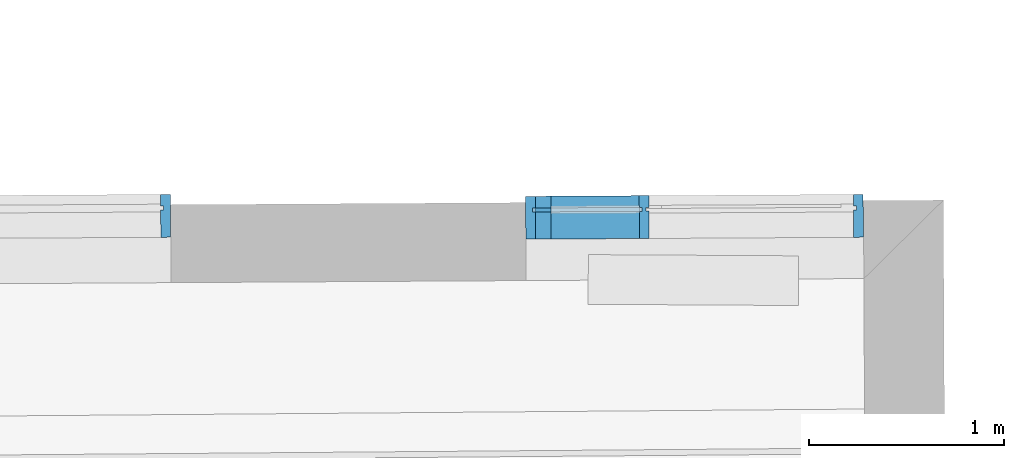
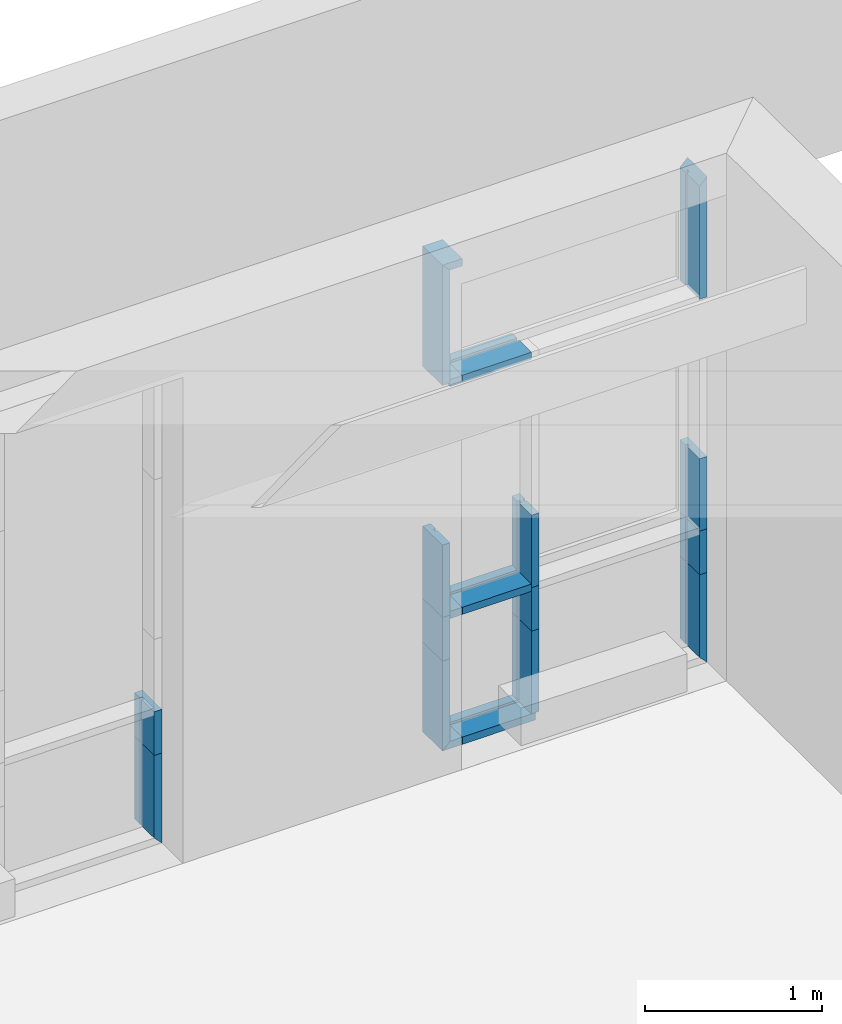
# One storey, part 165 of 196: 20 building element parts, 2 elements without a shape of their own.
"""IFC2X3 building model written with IfcOpenShell, lengths in metres."""

from ifc_helpers import new_model, entity, si_unit, converted_unit, derived_unit, money_unit, direction, frame, origin_with_axes, place, context, subcontext, project, spatial, faceted_brep, material, type_object, element, aggregate, save


model = new_model("IFC2X3")

# Units and contexts
model_context = context("Model", 3, precision=1e-05, world=origin_with_axes(), true_north=direction((0.0, 1.0)))
body_context = subcontext(model_context, "Body", "Model", "MODEL_VIEW")
ifc_project = project(units=[si_unit("LENGTHUNIT", "METRE"), si_unit("AREAUNIT", "SQUARE_METRE"), si_unit("VOLUMEUNIT", "CUBIC_METRE"), converted_unit("PLANEANGLEUNIT", "DEGREE", entity("IfcPlaneAngleMeasure", 0.0174532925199), si_unit("PLANEANGLEUNIT", "RADIAN"), dimensions=[0, 0, 0, 0, 0, 0, 0]), money_unit("EUR"), converted_unit("TIMEUNIT", "Year", entity("IfcTimeMeasure", 31556926.0), si_unit("TIMEUNIT", "SECOND"), dimensions=[0, 0, 1, 0, 0, 0, 0]), si_unit("MASSUNIT", "GRAM", prefix="KILO"), si_unit("THERMODYNAMICTEMPERATUREUNIT", "DEGREE_CELSIUS"), si_unit("LUMINOUSINTENSITYUNIT", "LUMEN"), si_unit("ENERGYUNIT", "JOULE", prefix="MEGA"), derived_unit("THERMALCONDUCTANCEUNIT", [(si_unit("POWERUNIT", "WATT"), 1), (si_unit("LENGTHUNIT", "METRE"), -1), (si_unit("THERMODYNAMICTEMPERATUREUNIT", "KELVIN"), -1)]), derived_unit("SPECIFICHEATCAPACITYUNIT", [(si_unit("ENERGYUNIT", "JOULE"), 1), (si_unit("MASSUNIT", "GRAM", prefix="KILO"), -1), (si_unit("THERMODYNAMICTEMPERATUREUNIT", "KELVIN"), -1)]), derived_unit("MASSDENSITYUNIT", [(si_unit("MASSUNIT", "GRAM", prefix="KILO"), 1), (si_unit("VOLUMEUNIT", "CUBIC_METRE"), -1)])], contexts=[model_context])

# Site, building, storey
site_placement = place(None, origin_with_axes())
site = spatial("IfcSite", under=ifc_project, at=site_placement, Name="Gelände", CompositionType="ELEMENT")
building_placement = place(site_placement, origin_with_axes())
building = spatial("IfcBuilding", under=site, at=building_placement, Name="Gebäude", CompositionType="ELEMENT")
storey_placement = place(building_placement, frame((0.0, 0.0, -3.0), z_axis=(0.0, 0.0, 1.0), x_axis=(1.0, 0.0, 0.0)))
storey = spatial("IfcBuildingStorey", under=building, at=storey_placement, Name="KELLERGESCHOSS", CompositionType="ELEMENT", Elevation=-3.0)

# Proxy, building element parts
building_element_proxy_type = type_object("IfcBuildingElementProxyType", Name="Fassadentyp", PredefinedType="NOTDEFINED")
proxy_1_placement = place(storey_placement, frame((-23.6479994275, 53.9595773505, 0.421025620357), z_axis=(0.0, 0.0, 1.0), x_axis=(1.0, 0.0, 0.0)))
proxy_1 = element("IfcBuildingElementProxy", 1, at=proxy_1_placement, inside=storey, type_object=building_element_proxy_type, Name="Fassade-002")
ifc_material = material(Name="53_Metall, Aluminium")
building_element_part_1_placement = place(proxy_1_placement, origin_with_axes())
building_element_part_1 = element("IfcBuildingElementPart", 2, at=building_element_part_1_placement, material=ifc_material, Name="53_Metall, Aluminium", context=body_context, shape_type="Brep", body=[
    faceted_brep([(4.00979148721, 0.0136883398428, 0.619999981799), (3.99479174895, 0.0135997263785, 0.619999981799), (3.99561880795, -0.126397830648, 0.619999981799), (4.04561793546, -0.126102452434, 0.619999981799), (4.04431827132, 0.093893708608, 0.619999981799), (3.99431914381, 0.0935983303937, 0.619999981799), (3.99467359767, 0.0335993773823, 0.619999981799), (4.00967333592, 0.0336879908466, 0.619999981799), (4.00979148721, 0.0136883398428, 0.0349999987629), (3.99479174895, 0.0135997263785, 0.0499999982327), (3.99561880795, -0.126397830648, 0.0499999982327), (4.04561793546, -0.126102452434, 0.0), (4.04431827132, 0.093893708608, 0.0), (3.99431914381, 0.0935983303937, 0.0499999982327), (3.99467359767, 0.0335993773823, 0.0499999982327), (4.00967333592, 0.0336879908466, 0.0349999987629)], [[[0, 1, 2, 3, 4, 5, 6, 7]], [[0, 8, 9, 1]], [[9, 10, 2, 1]], [[2, 10, 11, 3]], [[3, 11, 12, 4]], [[4, 12, 13, 5]], [[6, 5, 13, 14]], [[14, 15, 7, 6]], [[7, 15, 8, 0]], [[8, 15, 14, 13, 12, 11, 10, 9]]]),
])
building_element_part_2_placement = place(proxy_1_placement, origin_with_axes())
building_element_part_2 = element("IfcBuildingElementPart", 3, at=building_element_part_2_placement, material=ifc_material, Name="53_Metall, Aluminium", context=body_context, shape_type="Brep", body=[
    faceted_brep([(4.00979148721, 0.0136883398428, 0.920851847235), (3.99479174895, 0.0135997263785, 0.920851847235), (3.99561880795, -0.126397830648, 0.920851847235), (4.04561793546, -0.126102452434, 0.920851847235), (4.04431827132, 0.093893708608, 0.920851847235), (3.99431914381, 0.0935983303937, 0.920851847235), (3.99467359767, 0.0335993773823, 0.920851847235), (4.00967333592, 0.0336879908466, 0.920851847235), (4.00979148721, 0.0136883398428, 0.619999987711), (3.99479174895, 0.0135997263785, 0.619999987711), (3.99561880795, -0.126397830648, 0.619999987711), (4.04561793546, -0.126102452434, 0.619999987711), (4.04431827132, 0.093893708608, 0.619999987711), (3.99431914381, 0.0935983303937, 0.619999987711), (3.99467359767, 0.0335993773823, 0.619999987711), (4.00967333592, 0.0336879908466, 0.619999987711)], [[[0, 1, 2, 3, 4, 5, 6, 7]], [[0, 8, 9, 1]], [[9, 10, 2, 1]], [[10, 11, 3, 2]], [[11, 12, 4, 3]], [[12, 13, 5, 4]], [[6, 5, 13, 14]], [[14, 15, 7, 6]], [[7, 15, 8, 0]], [[8, 15, 14, 13, 12, 11, 10, 9]]]),
])
aggregate(proxy_1, [building_element_part_1, building_element_part_2])

proxy_2_placement = place(storey_placement, frame((-16.6085593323, 53.9801493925, 0.421025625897), z_axis=(0.0, 0.0, 1.0), x_axis=(1.0, 0.0, 0.0)))
proxy_2 = element("IfcBuildingElementProxy", 4, at=proxy_2_placement, inside=storey, type_object=building_element_proxy_type, Name="Fassade-002")
building_element_part_3_placement = place(proxy_2_placement, origin_with_axes())
building_element_part_3 = element("IfcBuildingElementPart", 5, at=building_element_part_3_placement, material=ifc_material, Name="53_Metall, Aluminium", context=body_context, shape_type="Brep", body=[
    faceted_brep([(-1.12077753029, -0.0166213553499, 0.910851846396), (-1.12077753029, -0.0166213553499, 0.895851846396), (-1.11995046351, -0.156618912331, 0.895851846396), (-1.11995046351, -0.156618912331, 0.945851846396), (-1.12077753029, -0.0166213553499, 0.945851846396), (-1.12077753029, -0.0166213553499, 0.930851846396), (-1.12089568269, 0.00337829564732, 0.930851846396), (-1.12089568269, 0.00337829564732, 0.945851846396), (-1.12125013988, 0.063377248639, 0.945851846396), (-1.12125013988, 0.063377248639, 0.895851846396), (-1.12089568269, 0.00337829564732, 0.895851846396), (-1.12089568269, 0.00337829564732, 0.910851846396), (-1.04050642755, -0.0161471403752, 0.910851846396), (-1.04050642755, -0.0161471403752, 0.895851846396), (-1.03967936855, -0.156144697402, 0.895851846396), (-1.03967936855, -0.156144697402, 0.945851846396), (-1.04050642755, -0.0161471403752, 0.945851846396), (-1.04050642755, -0.0161471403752, 0.930851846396), (-1.04062457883, 0.0038525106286, 0.930851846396), (-1.04062457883, 0.0038525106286, 0.945851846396), (-1.04097903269, 0.06385146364, 0.945851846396), (-1.04097903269, 0.06385146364, 0.895851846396), (-1.04062457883, 0.0038525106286, 0.895851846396), (-1.04062457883, 0.0038525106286, 0.910851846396)], [[[0, 1, 2, 3, 4, 5, 6, 7, 8, 9, 10, 11]], [[1, 0, 12, 13]], [[1, 13, 14, 2]], [[3, 2, 14, 15]], [[4, 3, 15, 16]], [[4, 16, 17, 5]], [[5, 17, 18, 6]], [[7, 6, 18, 19]], [[19, 20, 8, 7]], [[9, 8, 20, 21]], [[22, 10, 9, 21]], [[11, 10, 22, 23]], [[0, 11, 23, 12]], [[23, 22, 21, 20, 19, 18, 17, 16, 15, 14, 13, 12]]]),
])
building_element_part_4_placement = place(proxy_2_placement, origin_with_axes())
building_element_part_4 = element("IfcBuildingElementPart", 6, at=building_element_part_4_placement, material=ifc_material, Name="53_Metall, Aluminium", context=body_context, shape_type="Brep", body=[
    faceted_brep([(-1.12077753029, -0.0166213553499, 2.50999998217), (-1.12077753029, -0.0166213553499, 2.49499998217), (-1.11995046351, -0.156618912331, 2.49499998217), (-1.11995046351, -0.156618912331, 2.54499998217), (-1.12077753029, -0.0166213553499, 2.54499998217), (-1.12077753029, -0.0166213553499, 2.52999998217), (-1.12089568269, 0.00337829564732, 2.52999998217), (-1.12089568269, 0.00337829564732, 2.54499998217), (-1.12125013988, 0.063377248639, 2.54499998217), (-1.12125013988, 0.063377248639, 2.49499998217), (-1.12089568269, 0.00337829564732, 2.49499998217), (-1.12089568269, 0.00337829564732, 2.50999998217), (-1.04050642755, -0.0161471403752, 2.50999998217), (-1.04050642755, -0.0161471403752, 2.49499998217), (-1.03967936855, -0.156144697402, 2.49499998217), (-1.03967936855, -0.156144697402, 2.54499998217), (-1.04050642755, -0.0161471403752, 2.54499998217), (-1.04050642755, -0.0161471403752, 2.52999998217), (-1.04062457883, 0.0038525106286, 2.52999998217), (-1.04062457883, 0.0038525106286, 2.54499998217), (-1.04097903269, 0.06385146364, 2.54499998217), (-1.04097903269, 0.06385146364, 2.49499998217), (-1.04062457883, 0.0038525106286, 2.49499998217), (-1.04062457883, 0.0038525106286, 2.50999998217)], [[[0, 1, 2, 3, 4, 5, 6, 7, 8, 9, 10, 11]], [[1, 0, 12, 13]], [[1, 13, 14, 2]], [[3, 2, 14, 15]], [[4, 3, 15, 16]], [[4, 16, 17, 5]], [[5, 17, 18, 6]], [[7, 6, 18, 19]], [[19, 20, 8, 7]], [[9, 8, 20, 21]], [[22, 10, 9, 21]], [[11, 10, 22, 23]], [[0, 11, 23, 12]], [[23, 22, 21, 20, 19, 18, 17, 16, 15, 14, 13, 12]]]),
])
building_element_part_5_placement = place(proxy_2_placement, origin_with_axes())
building_element_part_5 = element("IfcBuildingElementPart", 7, at=building_element_part_5_placement, material=ifc_material, Name="53_Metall, Aluminium", context=body_context, shape_type="Brep", body=[
    faceted_brep([(-0.572411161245, -0.0133817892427, 0.619999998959), (-0.587410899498, -0.013470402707, 0.619999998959), (-0.586583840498, -0.153467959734, 0.619999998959), (-0.536584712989, -0.153172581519, 0.619999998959), (-0.537411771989, -0.0131750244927, 0.619999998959), (-0.552411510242, -0.013263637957, 0.619999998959), (-0.552529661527, 0.00673601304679, 0.619999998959), (-0.537529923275, 0.00682462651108, 0.619999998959), (-0.537884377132, 0.0668235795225, 0.619999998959), (-0.587883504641, 0.0665282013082, 0.619999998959), (-0.587529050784, 0.00652924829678, 0.619999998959), (-0.572529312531, 0.00661786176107, 0.619999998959), (-0.572411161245, -0.0133817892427, 0.049999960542), (-0.587410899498, -0.013470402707, 0.049999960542), (-0.586583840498, -0.153467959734, 0.0499999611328), (-0.536584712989, -0.153172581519, 0.0499999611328), (-0.537411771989, -0.0131750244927, 0.049999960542), (-0.552411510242, -0.013263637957, 0.049999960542), (-0.552529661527, 0.00673601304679, 0.0499999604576), (-0.537529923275, 0.00682462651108, 0.0499999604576), (-0.537884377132, 0.0668235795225, 0.0499999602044), (-0.587883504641, 0.0665282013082, 0.0499999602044), (-0.587529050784, 0.00652924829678, 0.0499999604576), (-0.572529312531, 0.00661786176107, 0.0499999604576)], [[[0, 1, 2, 3, 4, 5, 6, 7, 8, 9, 10, 11]], [[1, 0, 12, 13]], [[1, 13, 14, 2]], [[2, 14, 15, 3]], [[4, 3, 15, 16]], [[4, 16, 17, 5]], [[5, 17, 18, 6]], [[7, 6, 18, 19]], [[19, 20, 8, 7]], [[8, 20, 21, 9]], [[22, 10, 9, 21]], [[11, 10, 22, 23]], [[0, 11, 23, 12]], [[23, 22, 21, 20, 19, 18, 17, 16, 15, 14, 13, 12]]]),
])
building_element_part_6_placement = place(proxy_2_placement, origin_with_axes())
building_element_part_6 = element("IfcBuildingElementPart", 8, at=building_element_part_6_placement, material=ifc_material, Name="53_Metall, Aluminium", context=body_context, shape_type="Brep", body=[
    faceted_brep([(-1.1357772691, -0.0167099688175, 0.0349999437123), (-1.13589542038, 0.00328968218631, 0.0349999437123), (-1.12089568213, 0.0033782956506, 0.0499999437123), (-1.12125013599, 0.063377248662, 0.0499999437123), (-1.1712492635, 0.0630818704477, -5.62876549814e-08), (-1.16994959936, -0.156914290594, -5.62876549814e-08), (-1.11995047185, -0.15661891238, 0.0499999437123), (-1.12077753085, -0.0166213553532, 0.0499999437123), (-1.04050642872, -0.0161471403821, 0.0349999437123), (-1.04062458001, 0.00385251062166, 0.0349999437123), (-1.04062458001, 0.00385251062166, 0.0499999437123), (-1.04097903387, 0.063851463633, 0.0499999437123), (-1.04097903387, 0.063851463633, -5.62876549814e-08), (-1.03967936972, -0.156144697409, -5.62876549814e-08), (-1.03967936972, -0.156144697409, 0.0499999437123), (-1.04050642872, -0.0161471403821, 0.0499999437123)], [[[0, 1, 2, 3, 4, 5, 6, 7]], [[1, 0, 8, 9]], [[10, 2, 1, 9]], [[2, 10, 11, 3]], [[12, 4, 3, 11]], [[13, 5, 4, 12]], [[14, 6, 5, 13]], [[15, 7, 6, 14]], [[0, 7, 15, 8]], [[8, 15, 14, 13, 12, 11, 10, 9]]]),
])
building_element_part_7_placement = place(proxy_2_placement, origin_with_axes())
building_element_part_7 = element("IfcBuildingElementPart", 9, at=building_element_part_7_placement, material=ifc_material, Name="53_Metall, Aluminium", context=body_context, shape_type="Brep", body=[
    faceted_brep([(-1.1357772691, -0.0167099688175, 1.4199999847), (-1.13589542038, 0.00328968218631, 1.4199999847), (-1.12089568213, 0.0033782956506, 1.4199999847), (-1.12125013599, 0.063377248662, 1.4199999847), (-1.1712492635, 0.0630818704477, 1.4199999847), (-1.16994959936, -0.156914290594, 1.4199999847), (-1.11995047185, -0.15661891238, 1.4199999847), (-1.12077753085, -0.0166213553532, 1.4199999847), (-1.1357772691, -0.0167099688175, 0.920851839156), (-1.13589542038, 0.00328968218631, 0.920851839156), (-1.12089568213, 0.0033782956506, 0.920851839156), (-1.12125013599, 0.063377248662, 0.920851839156), (-1.1712492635, 0.0630818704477, 0.920851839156), (-1.16994959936, -0.156914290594, 0.920851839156), (-1.11995047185, -0.15661891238, 0.920851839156), (-1.12077753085, -0.0166213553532, 0.920851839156)], [[[0, 1, 2, 3, 4, 5, 6, 7]], [[1, 0, 8, 9]], [[10, 2, 1, 9]], [[2, 10, 11, 3]], [[12, 4, 3, 11]], [[13, 5, 4, 12]], [[14, 6, 5, 13]], [[15, 7, 6, 14]], [[0, 7, 15, 8]], [[8, 15, 14, 13, 12, 11, 10, 9]]]),
])
building_element_part_8_placement = place(proxy_2_placement, origin_with_axes())
building_element_part_8 = element("IfcBuildingElementPart", 10, at=building_element_part_8_placement, material=ifc_material, Name="53_Metall, Aluminium", context=body_context, shape_type="Brep", body=[
    faceted_brep([(-1.1357772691, -0.0167099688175, 0.920851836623), (-1.13589542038, 0.00328968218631, 0.920851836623), (-1.12089568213, 0.0033782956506, 0.920851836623), (-1.12125013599, 0.063377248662, 0.920851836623), (-1.1712492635, 0.0630818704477, 0.920851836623), (-1.16994959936, -0.156914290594, 0.920851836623), (-1.11995047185, -0.15661891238, 0.920851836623), (-1.12077753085, -0.0166213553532, 0.920851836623), (-1.1357772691, -0.0167099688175, 0.619999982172), (-1.13589542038, 0.00328968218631, 0.619999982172), (-1.12089568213, 0.0033782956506, 0.619999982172), (-1.12125013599, 0.063377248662, 0.619999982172), (-1.1712492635, 0.0630818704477, 0.619999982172), (-1.16994959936, -0.156914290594, 0.619999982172), (-1.11995047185, -0.15661891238, 0.619999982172), (-1.12077753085, -0.0166213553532, 0.619999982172)], [[[0, 1, 2, 3, 4, 5, 6, 7]], [[1, 0, 8, 9]], [[10, 2, 1, 9]], [[2, 10, 11, 3]], [[12, 4, 3, 11]], [[13, 5, 4, 12]], [[14, 6, 5, 13]], [[15, 7, 6, 14]], [[0, 7, 15, 8]], [[8, 15, 14, 13, 12, 11, 10, 9]]]),
])
building_element_part_9_placement = place(proxy_2_placement, origin_with_axes())
building_element_part_9 = element("IfcBuildingElementPart", 11, at=building_element_part_9_placement, material=ifc_material, Name="53_Metall, Aluminium", context=body_context, shape_type="Brep", body=[
    faceted_brep([(-1.1357772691, -0.0167099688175, 0.619999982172), (-1.13589542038, 0.00328968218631, 0.619999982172), (-1.12089568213, 0.0033782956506, 0.619999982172), (-1.12125013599, 0.063377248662, 0.619999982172), (-1.1712492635, 0.0630818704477, 0.619999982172), (-1.16994959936, -0.156914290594, 0.619999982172), (-1.11995047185, -0.15661891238, 0.619999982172), (-1.12077753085, -0.0166213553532, 0.619999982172), (-1.1357772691, -0.0167099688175, 0.0349999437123), (-1.13589542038, 0.00328968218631, 0.0349999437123), (-1.12089568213, 0.0033782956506, 0.0499999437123), (-1.12125013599, 0.063377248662, 0.0499999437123), (-1.1712492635, 0.0630818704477, -5.62876545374e-08), (-1.16994959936, -0.156914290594, -5.62876545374e-08), (-1.11995047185, -0.15661891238, 0.0499999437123), (-1.12077753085, -0.0166213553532, 0.0499999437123)], [[[0, 1, 2, 3, 4, 5, 6, 7]], [[1, 0, 8, 9]], [[10, 2, 1, 9]], [[2, 10, 11, 3]], [[4, 3, 11, 12]], [[5, 4, 12, 13]], [[6, 5, 13, 14]], [[15, 7, 6, 14]], [[0, 7, 15, 8]], [[8, 15, 14, 13, 12, 11, 10, 9]]]),
])
building_element_part_10_placement = place(proxy_2_placement, origin_with_axes())
building_element_part_10 = element("IfcBuildingElementPart", 12, at=building_element_part_10_placement, material=ifc_material, Name="53_Metall, Aluminium", context=body_context, shape_type="Brep", body=[
    faceted_brep([(-1.04050643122, -0.0161471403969, 0.910851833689), (-1.04050643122, -0.0161471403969, 0.895851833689), (-1.03967937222, -0.156144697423, 0.895851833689), (-1.03967937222, -0.156144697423, 0.945851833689), (-1.04050643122, -0.0161471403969, 0.945851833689), (-1.04050643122, -0.0161471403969, 0.930851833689), (-1.0406245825, 0.00385251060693, 0.930851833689), (-1.0406245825, 0.00385251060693, 0.945851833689), (-1.04097903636, 0.0638514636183, 0.945851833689), (-1.04097903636, 0.0638514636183, 0.895851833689), (-1.0406245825, 0.00385251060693, 0.895851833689), (-1.0406245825, 0.00385251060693, 0.910851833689), (-0.58741089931, -0.0134704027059, 0.910851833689), (-0.58741089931, -0.0134704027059, 0.895851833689), (-0.586583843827, -0.153467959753, 0.895851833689), (-0.586583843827, -0.153467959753, 0.945851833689), (-0.58741089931, -0.0134704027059, 0.945851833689), (-0.58741089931, -0.0134704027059, 0.930851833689), (-0.587529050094, 0.00652924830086, 0.930851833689), (-0.587529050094, 0.00652924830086, 0.945851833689), (-0.587883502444, 0.0665282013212, 0.945851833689), (-0.587883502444, 0.0665282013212, 0.895851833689), (-0.587529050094, 0.00652924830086, 0.895851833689), (-0.587529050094, 0.00652924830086, 0.910851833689)], [[[0, 1, 2, 3, 4, 5, 6, 7, 8, 9, 10, 11]], [[1, 0, 12, 13]], [[1, 13, 14, 2]], [[2, 14, 15, 3]], [[4, 3, 15, 16]], [[4, 16, 17, 5]], [[5, 17, 18, 6]], [[7, 6, 18, 19]], [[19, 20, 8, 7]], [[8, 20, 21, 9]], [[22, 10, 9, 21]], [[11, 10, 22, 23]], [[0, 11, 23, 12]], [[23, 22, 21, 20, 19, 18, 17, 16, 15, 14, 13, 12]]]),
])
building_element_part_11_placement = place(proxy_2_placement, origin_with_axes())
building_element_part_11 = element("IfcBuildingElementPart", 13, at=building_element_part_11_placement, material=ifc_material, Name="53_Metall, Aluminium", context=body_context, shape_type="Brep", body=[
    faceted_brep([(-1.04050643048, -0.0161471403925, 0.0349999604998), (-1.04062458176, 0.00385251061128, 0.0349999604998), (-1.04062458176, 0.00385251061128, 0.0499999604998), (-1.04097903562, 0.0638514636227, 0.0499999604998), (-1.04097903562, 0.0638514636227, -3.95002257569e-08), (-1.03967937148, -0.156144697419, -3.95002257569e-08), (-1.03967937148, -0.156144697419, 0.0499999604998), (-1.04050643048, -0.0161471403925, 0.0499999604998), (-0.562411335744, -0.0133227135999, 0.0349999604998), (-0.562529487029, 0.00667693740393, 0.0349999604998), (-0.562529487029, 0.00667693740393, 0.0499999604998), (-0.562883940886, 0.0666758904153, 0.0499999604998), (-0.562883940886, 0.0666758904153, -3.95002257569e-08), (-0.561584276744, -0.153320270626, -3.95002257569e-08), (-0.561584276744, -0.153320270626, 0.0499999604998), (-0.562411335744, -0.0133227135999, 0.0499999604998)], [[[0, 1, 2, 3, 4, 5, 6, 7]], [[1, 0, 8, 9]], [[10, 2, 1, 9]], [[2, 10, 11, 3]], [[12, 4, 3, 11]], [[13, 5, 4, 12]], [[14, 6, 5, 13]], [[15, 7, 6, 14]], [[0, 7, 15, 8]], [[8, 15, 14, 13, 12, 11, 10, 9]]]),
])
building_element_part_12_placement = place(proxy_2_placement, origin_with_axes())
building_element_part_12 = element("IfcBuildingElementPart", 14, at=building_element_part_12_placement, material=ifc_material, Name="53_Metall, Aluminium", context=body_context, shape_type="Brep", body=[
    faceted_brep([(-0.572411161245, -0.0133817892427, 0.920851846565), (-0.587410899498, -0.013470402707, 0.920851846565), (-0.586583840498, -0.153467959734, 0.920851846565), (-0.536584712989, -0.153172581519, 0.920851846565), (-0.537411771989, -0.0131750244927, 0.920851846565), (-0.552411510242, -0.013263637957, 0.920851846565), (-0.552529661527, 0.00673601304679, 0.920851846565), (-0.537529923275, 0.00682462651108, 0.920851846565), (-0.537884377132, 0.0668235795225, 0.920851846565), (-0.587883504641, 0.0665282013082, 0.920851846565), (-0.587529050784, 0.00652924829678, 0.920851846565), (-0.572529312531, 0.00661786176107, 0.920851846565), (-0.572411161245, -0.0133817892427, 0.619999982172), (-0.587410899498, -0.013470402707, 0.619999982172), (-0.586583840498, -0.153467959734, 0.619999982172), (-0.536584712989, -0.153172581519, 0.619999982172), (-0.537411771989, -0.0131750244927, 0.619999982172), (-0.552411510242, -0.013263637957, 0.619999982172), (-0.552529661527, 0.00673601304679, 0.619999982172), (-0.537529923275, 0.00682462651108, 0.619999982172), (-0.537884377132, 0.0668235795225, 0.619999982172), (-0.587883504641, 0.0665282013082, 0.619999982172), (-0.587529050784, 0.00652924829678, 0.619999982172), (-0.572529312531, 0.00661786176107, 0.619999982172)], [[[0, 1, 2, 3, 4, 5, 6, 7, 8, 9, 10, 11]], [[1, 0, 12, 13]], [[1, 13, 14, 2]], [[3, 2, 14, 15]], [[4, 3, 15, 16]], [[4, 16, 17, 5]], [[5, 17, 18, 6]], [[7, 6, 18, 19]], [[19, 20, 8, 7]], [[9, 8, 20, 21]], [[22, 10, 9, 21]], [[11, 10, 22, 23]], [[0, 11, 23, 12]], [[23, 22, 21, 20, 19, 18, 17, 16, 15, 14, 13, 12]]]),
])
building_element_part_13_placement = place(proxy_2_placement, origin_with_axes())
building_element_part_13 = element("IfcBuildingElementPart", 15, at=building_element_part_13_placement, material=ifc_material, Name="53_Metall, Aluminium", context=body_context, shape_type="Brep", body=[
    faceted_brep([(0.527530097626, -0.00688370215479, 1.41999997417), (0.512530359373, -0.00697231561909, 1.41999997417), (0.513357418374, -0.146969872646, 1.41999997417), (0.563356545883, -0.146674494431, 1.41999997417), (0.56205688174, 0.0733216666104, 1.41999997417), (0.512057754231, 0.0730262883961, 1.41999997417), (0.512412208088, 0.0130273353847, 1.41999997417), (0.527411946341, 0.013115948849, 1.41999997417), (0.527530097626, -0.00688370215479, 0.920851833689), (0.512530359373, -0.00697231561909, 0.920851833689), (0.513357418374, -0.146969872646, 0.920851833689), (0.563356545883, -0.146674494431, 0.920851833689), (0.56205688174, 0.0733216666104, 0.920851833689), (0.512057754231, 0.0730262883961, 0.920851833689), (0.512412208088, 0.0130273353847, 0.920851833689), (0.527411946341, 0.013115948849, 0.920851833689)], [[[0, 1, 2, 3, 4, 5, 6, 7]], [[0, 8, 9, 1]], [[9, 10, 2, 1]], [[10, 11, 3, 2]], [[11, 12, 4, 3]], [[12, 13, 5, 4]], [[6, 5, 13, 14]], [[14, 15, 7, 6]], [[7, 15, 8, 0]], [[8, 15, 14, 13, 12, 11, 10, 9]]]),
])
building_element_part_14_placement = place(proxy_2_placement, origin_with_axes())
building_element_part_14 = element("IfcBuildingElementPart", 16, at=building_element_part_14_placement, material=ifc_material, Name="53_Metall, Aluminium", context=body_context, shape_type="Brep", body=[
    faceted_brep([(0.527530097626, -0.00688370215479, 3.3149999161), (0.512530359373, -0.00697231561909, 3.2999999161), (0.513357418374, -0.146969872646, 3.2999999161), (0.563356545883, -0.146674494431, 3.3499999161), (0.56205688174, 0.0733216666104, 3.3499999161), (0.512057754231, 0.0730262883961, 3.2999999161), (0.512412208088, 0.0130273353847, 3.2999999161), (0.527411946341, 0.013115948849, 3.3149999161), (0.527530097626, -0.00688370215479, 2.51999998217), (0.512530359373, -0.00697231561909, 2.51999998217), (0.513357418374, -0.146969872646, 2.51999998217), (0.563356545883, -0.146674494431, 2.51999998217), (0.56205688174, 0.0733216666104, 2.51999998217), (0.512057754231, 0.0730262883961, 2.51999998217), (0.512412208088, 0.0130273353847, 2.51999998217), (0.527411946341, 0.013115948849, 2.51999998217)], [[[0, 1, 2, 3, 4, 5, 6, 7]], [[0, 8, 9, 1]], [[9, 10, 2, 1]], [[10, 11, 3, 2]], [[11, 12, 4, 3]], [[12, 13, 5, 4]], [[6, 5, 13, 14]], [[14, 15, 7, 6]], [[7, 15, 8, 0]], [[8, 15, 14, 13, 12, 11, 10, 9]]]),
])
building_element_part_15_placement = place(proxy_2_placement, origin_with_axes())
building_element_part_15 = element("IfcBuildingElementPart", 17, at=building_element_part_15_placement, material=ifc_material, Name="53_Metall, Aluminium", context=body_context, shape_type="Brep", body=[
    faceted_brep([(-1.1357772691, -0.0167099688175, 3.31499988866), (-1.12077753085, -0.0166213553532, 3.29999988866), (-1.11995047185, -0.15661891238, 3.29999988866), (-1.16994959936, -0.156914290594, 3.34999988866), (-1.1712492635, 0.0630818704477, 3.34999988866), (-1.12125013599, 0.063377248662, 3.29999988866), (-1.12089568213, 0.0033782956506, 3.29999988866), (-1.13589542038, 0.00328968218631, 3.31499988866), (-1.0405064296, -0.0161471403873, 3.31499988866), (-1.0405064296, -0.0161471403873, 3.29999988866), (-1.0396793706, -0.156144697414, 3.29999988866), (-1.0396793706, -0.156144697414, 3.34999988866), (-1.04097903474, 0.0638514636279, 3.34999988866), (-1.04097903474, 0.0638514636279, 3.29999988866), (-1.04062458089, 0.00385251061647, 3.29999988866), (-1.04062458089, 0.00385251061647, 3.31499988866)], [[[0, 1, 2, 3, 4, 5, 6, 7]], [[0, 8, 9, 1]], [[9, 10, 2, 1]], [[10, 11, 3, 2]], [[11, 12, 4, 3]], [[12, 13, 5, 4]], [[6, 5, 13, 14]], [[14, 15, 7, 6]], [[7, 15, 8, 0]], [[8, 15, 14, 13, 12, 11, 10, 9]]]),
])
building_element_part_16_placement = place(proxy_2_placement, origin_with_axes())
building_element_part_16 = element("IfcBuildingElementPart", 18, at=building_element_part_16_placement, material=ifc_material, Name="53_Metall, Aluminium", context=body_context, shape_type="Brep", body=[
    faceted_brep([(0.527530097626, -0.00688370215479, 0.920851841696), (0.512530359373, -0.00697231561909, 0.920851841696), (0.513357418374, -0.146969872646, 0.920851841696), (0.563356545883, -0.146674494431, 0.920851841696), (0.56205688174, 0.0733216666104, 0.920851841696), (0.512057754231, 0.0730262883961, 0.920851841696), (0.512412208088, 0.0130273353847, 0.920851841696), (0.527411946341, 0.013115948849, 0.920851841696), (0.527530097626, -0.00688370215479, 0.619999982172), (0.512530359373, -0.00697231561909, 0.619999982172), (0.513357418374, -0.146969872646, 0.619999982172), (0.563356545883, -0.146674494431, 0.619999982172), (0.56205688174, 0.0733216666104, 0.619999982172), (0.512057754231, 0.0730262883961, 0.619999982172), (0.512412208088, 0.0130273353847, 0.619999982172), (0.527411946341, 0.013115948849, 0.619999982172)], [[[0, 1, 2, 3, 4, 5, 6, 7]], [[0, 8, 9, 1]], [[9, 10, 2, 1]], [[10, 11, 3, 2]], [[11, 12, 4, 3]], [[12, 13, 5, 4]], [[6, 5, 13, 14]], [[14, 15, 7, 6]], [[7, 15, 8, 0]], [[8, 15, 14, 13, 12, 11, 10, 9]]]),
])
building_element_part_17_placement = place(proxy_2_placement, origin_with_axes())
building_element_part_17 = element("IfcBuildingElementPart", 19, at=building_element_part_17_placement, material=ifc_material, Name="53_Metall, Aluminium", context=body_context, shape_type="Brep", body=[
    faceted_brep([(0.527530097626, -0.00688370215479, 0.619999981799), (0.512530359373, -0.00697231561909, 0.619999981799), (0.513357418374, -0.146969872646, 0.619999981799), (0.563356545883, -0.146674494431, 0.619999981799), (0.56205688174, 0.0733216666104, 0.619999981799), (0.512057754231, 0.0730262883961, 0.619999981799), (0.512412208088, 0.0130273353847, 0.619999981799), (0.527411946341, 0.013115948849, 0.619999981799), (0.527530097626, -0.00688370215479, 0.0349999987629), (0.512530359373, -0.00697231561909, 0.0499999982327), (0.513357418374, -0.146969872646, 0.0499999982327), (0.563356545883, -0.146674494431, 0.0), (0.56205688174, 0.0733216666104, 0.0), (0.512057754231, 0.0730262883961, 0.0499999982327), (0.512412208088, 0.0130273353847, 0.0499999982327), (0.527411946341, 0.013115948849, 0.0349999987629)], [[[0, 1, 2, 3, 4, 5, 6, 7]], [[0, 8, 9, 1]], [[9, 10, 2, 1]], [[2, 10, 11, 3]], [[3, 11, 12, 4]], [[4, 12, 13, 5]], [[6, 5, 13, 14]], [[14, 15, 7, 6]], [[7, 15, 8, 0]], [[8, 15, 14, 13, 12, 11, 10, 9]]]),
])
building_element_part_18_placement = place(proxy_2_placement, origin_with_axes())
building_element_part_18 = element("IfcBuildingElementPart", 20, at=building_element_part_18_placement, material=ifc_material, Name="53_Metall, Aluminium", context=body_context, shape_type="Brep", body=[
    faceted_brep([(-1.1357772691, -0.0167099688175, 3.3149999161), (-1.13589542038, 0.00328968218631, 3.3149999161), (-1.12089568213, 0.0033782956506, 3.2999999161), (-1.12125013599, 0.063377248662, 3.2999999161), (-1.1712492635, 0.0630818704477, 3.3499999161), (-1.16994959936, -0.156914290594, 3.3499999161), (-1.11995047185, -0.15661891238, 3.2999999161), (-1.12077753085, -0.0166213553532, 3.2999999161), (-1.1357772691, -0.0167099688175, 2.51999998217), (-1.13589542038, 0.00328968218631, 2.51999998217), (-1.12089568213, 0.0033782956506, 2.51999998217), (-1.12125013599, 0.063377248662, 2.51999998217), (-1.1712492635, 0.0630818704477, 2.51999998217), (-1.16994959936, -0.156914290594, 2.51999998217), (-1.11995047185, -0.15661891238, 2.51999998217), (-1.12077753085, -0.0166213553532, 2.51999998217)], [[[0, 1, 2, 3, 4, 5, 6, 7]], [[1, 0, 8, 9]], [[10, 2, 1, 9]], [[2, 10, 11, 3]], [[12, 4, 3, 11]], [[13, 5, 4, 12]], [[14, 6, 5, 13]], [[15, 7, 6, 14]], [[0, 7, 15, 8]], [[8, 15, 14, 13, 12, 11, 10, 9]]]),
])
building_element_part_19_placement = place(proxy_2_placement, origin_with_axes())
building_element_part_19 = element("IfcBuildingElementPart", 21, at=building_element_part_19_placement, material=ifc_material, Name="53_Metall, Aluminium", context=body_context, shape_type="Brep", body=[
    faceted_brep([(-1.04050643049, -0.0161471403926, 2.50999998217), (-1.04050643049, -0.0161471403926, 2.49499998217), (-1.03967937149, -0.156144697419, 2.49499998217), (-1.03967937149, -0.156144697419, 2.54499998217), (-1.04050643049, -0.0161471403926, 2.54499998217), (-1.04050643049, -0.0161471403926, 2.52999998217), (-1.04062458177, 0.00385251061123, 2.52999998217), (-1.04062458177, 0.00385251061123, 2.54499998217), (-1.04097903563, 0.0638514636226, 2.54499998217), (-1.04097903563, 0.0638514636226, 2.49499998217), (-1.04062458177, 0.00385251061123, 2.49499998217), (-1.04062458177, 0.00385251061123, 2.50999998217), (-0.587410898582, -0.0134704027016, 2.50999998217), (-0.587410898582, -0.0134704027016, 2.49499998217), (-0.586583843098, -0.153467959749, 2.49499998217), (-0.586583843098, -0.153467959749, 2.54499998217), (-0.587410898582, -0.0134704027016, 2.54499998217), (-0.587410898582, -0.0134704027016, 2.52999998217), (-0.587529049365, 0.00652924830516, 2.52999998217), (-0.587529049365, 0.00652924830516, 2.54499998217), (-0.587883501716, 0.0665282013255, 2.54499998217), (-0.587883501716, 0.0665282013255, 2.49499998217), (-0.587529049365, 0.00652924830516, 2.49499998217), (-0.587529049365, 0.00652924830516, 2.50999998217)], [[[0, 1, 2, 3, 4, 5, 6, 7, 8, 9, 10, 11]], [[1, 0, 12, 13]], [[1, 13, 14, 2]], [[2, 14, 15, 3]], [[4, 3, 15, 16]], [[4, 16, 17, 5]], [[5, 17, 18, 6]], [[7, 6, 18, 19]], [[19, 20, 8, 7]], [[8, 20, 21, 9]], [[22, 10, 9, 21]], [[11, 10, 22, 23]], [[0, 11, 23, 12]], [[23, 22, 21, 20, 19, 18, 17, 16, 15, 14, 13, 12]]]),
])
building_element_part_20_placement = place(proxy_2_placement, origin_with_axes())
building_element_part_20 = element("IfcBuildingElementPart", 22, at=building_element_part_20_placement, material=ifc_material, Name="53_Metall, Aluminium", context=body_context, shape_type="Brep", body=[
    faceted_brep([(-0.572411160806, -0.0133817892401, 1.41999997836), (-0.587410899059, -0.0134704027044, 1.41999997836), (-0.586583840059, -0.153467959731, 1.41999997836), (-0.53658471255, -0.153172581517, 1.41999997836), (-0.53741177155, -0.0131750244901, 1.41999997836), (-0.552411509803, -0.0132636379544, 1.41999997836), (-0.552529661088, 0.00673601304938, 1.41999997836), (-0.537529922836, 0.00682462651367, 1.41999997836), (-0.537884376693, 0.0668235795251, 1.41999997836), (-0.587883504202, 0.0665282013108, 1.41999997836), (-0.587529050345, 0.00652924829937, 1.41999997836), (-0.572529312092, 0.00661786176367, 1.41999997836), (-0.572411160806, -0.0133817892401, 0.920851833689), (-0.587410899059, -0.0134704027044, 0.920851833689), (-0.586583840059, -0.153467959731, 0.920851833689), (-0.53658471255, -0.153172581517, 0.920851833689), (-0.53741177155, -0.0131750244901, 0.920851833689), (-0.552411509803, -0.0132636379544, 0.920851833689), (-0.552529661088, 0.00673601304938, 0.920851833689), (-0.537529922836, 0.00682462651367, 0.920851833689), (-0.537884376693, 0.0668235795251, 0.920851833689), (-0.587883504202, 0.0665282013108, 0.920851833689), (-0.587529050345, 0.00652924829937, 0.920851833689), (-0.572529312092, 0.00661786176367, 0.920851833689)], [[[0, 1, 2, 3, 4, 5, 6, 7, 8, 9, 10, 11]], [[1, 0, 12, 13]], [[1, 13, 14, 2]], [[3, 2, 14, 15]], [[4, 3, 15, 16]], [[4, 16, 17, 5]], [[5, 17, 18, 6]], [[7, 6, 18, 19]], [[19, 20, 8, 7]], [[9, 8, 20, 21]], [[22, 10, 9, 21]], [[11, 10, 22, 23]], [[0, 11, 23, 12]], [[23, 22, 21, 20, 19, 18, 17, 16, 15, 14, 13, 12]]]),
])
aggregate(proxy_2, [building_element_part_3, building_element_part_4, building_element_part_5, building_element_part_6, building_element_part_7, building_element_part_8, building_element_part_9, building_element_part_10, building_element_part_11, building_element_part_12, building_element_part_13, building_element_part_14, building_element_part_15, building_element_part_16, building_element_part_17, building_element_part_18, building_element_part_19, building_element_part_20])

save(model, "model.ifc")
